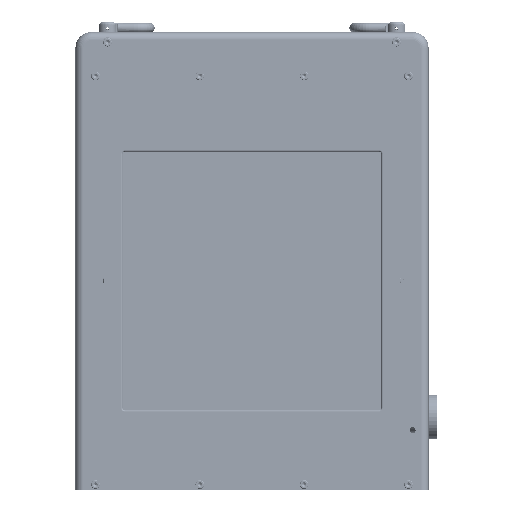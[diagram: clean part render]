
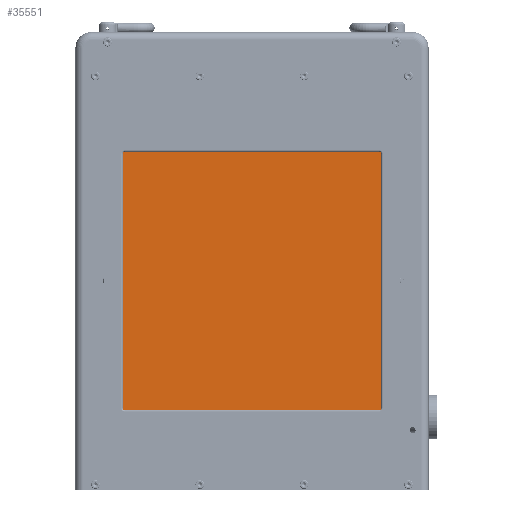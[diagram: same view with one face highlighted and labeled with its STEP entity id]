
A CAD part, top view. The second image highlights one B-rep face of the part: STEP entity #35551.
In plain terms, the highlighted planar face has unit normal (0, 0, 1).
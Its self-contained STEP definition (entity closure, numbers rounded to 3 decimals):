
#547 = VERTEX_POINT ( 'NONE', #16413 ) ;
#2853 = EDGE_LOOP ( 'NONE', ( #192200, #63842 ) ) ;
#3478 = EDGE_CURVE ( 'NONE', #225574, #107862, #183199, .T. ) ;
#9518 = CARTESIAN_POINT ( 'NONE',  ( -4.144, 10.699, -1.538 ) ) ;
#11223 = VERTEX_POINT ( 'NONE', #9518 ) ;
#12808 = VERTEX_POINT ( 'NONE', #21782 ) ;
#16413 = CARTESIAN_POINT ( 'NONE',  ( -4.144, 2.299, -1.538 ) ) ;
#20554 = DIRECTION ( 'NONE',  ( 0., 0., 1. ) ) ;
#21782 = CARTESIAN_POINT ( 'NONE',  ( -4.256, 2.299, -1.538 ) ) ;
#21845 = ORIENTED_EDGE ( 'NONE', *, *, #43625, .T. ) ;
#24628 = CARTESIAN_POINT ( 'NONE',  ( -4.2, 2.299, -1.538 ) ) ;
#28215 = FACE_BOUND ( 'NONE', #188206, .T. ) ;
#32546 = DIRECTION ( 'NONE',  ( -1., 0., 0. ) ) ;
#34349 = VERTEX_POINT ( 'NONE', #36705 ) ;
#35488 = VECTOR ( 'NONE', #32546, 39.37 ) ;
#35551 = ADVANCED_FACE ( 'NONE', ( #28215, #210201, #168925, #163423, #69527 ), #170372, .T. ) ;
#36705 = CARTESIAN_POINT ( 'NONE',  ( 4.375, 2.124, -1.538 ) ) ;
#37579 = CARTESIAN_POINT ( 'NONE',  ( -4.2, 2.299, -1.538 ) ) ;
#40556 = EDGE_CURVE ( 'NONE', #150929, #11223, #217038, .T. ) ;
#41251 = CARTESIAN_POINT ( 'NONE',  ( -4.375, 10.874, -1.538 ) ) ;
#42358 = DIRECTION ( 'NONE',  ( 1., 0., 0. ) ) ;
#42992 = AXIS2_PLACEMENT_3D ( 'NONE', #37579, #160919, #55296 ) ;
#43274 = CARTESIAN_POINT ( 'NONE',  ( 4.2, 2.299, -1.538 ) ) ;
#43625 = EDGE_CURVE ( 'NONE', #34349, #51428, #187084, .T. ) ;
#47060 = CARTESIAN_POINT ( 'NONE',  ( -4.2, 10.699, -1.538 ) ) ;
#51353 = CIRCLE ( 'NONE', #42992, 0.056 ) ;
#51428 = VERTEX_POINT ( 'NONE', #203815 ) ;
#52408 = CARTESIAN_POINT ( 'NONE',  ( 4.2, 10.699, -1.538 ) ) ;
#55296 = DIRECTION ( 'NONE',  ( 1., 0., 0. ) ) ;
#56526 = EDGE_CURVE ( 'NONE', #12808, #547, #51353, .T. ) ;
#58470 = DIRECTION ( 'NONE',  ( 0., 0., 1. ) ) ;
#59041 = EDGE_CURVE ( 'NONE', #82368, #64643, #69739, .T. ) ;
#60834 = DIRECTION ( 'NONE',  ( 1., 0., 0. ) ) ;
#60980 = DIRECTION ( 'NONE',  ( 1., 0., 0. ) ) ;
#61388 = AXIS2_PLACEMENT_3D ( 'NONE', #188095, #152613, #205792 ) ;
#63842 = ORIENTED_EDGE ( 'NONE', *, *, #134303, .F. ) ;
#64643 = VERTEX_POINT ( 'NONE', #75701 ) ;
#64796 = DIRECTION ( 'NONE',  ( 1., 0., 0. ) ) ;
#67394 = LINE ( 'NONE', #165725, #108672 ) ;
#69527 = FACE_OUTER_BOUND ( 'NONE', #126995, .T. ) ;
#69739 = CIRCLE ( 'NONE', #224994, 0.056 ) ;
#70115 = DIRECTION ( 'NONE',  ( 1., 0., 0. ) ) ;
#71526 = ORIENTED_EDGE ( 'NONE', *, *, #56526, .F. ) ;
#71547 = ORIENTED_EDGE ( 'NONE', *, *, #185013, .F. ) ;
#75701 = CARTESIAN_POINT ( 'NONE',  ( 4.144, 10.699, -1.538 ) ) ;
#77005 = DIRECTION ( 'NONE',  ( 0., 0., 1. ) ) ;
#82341 = ORIENTED_EDGE ( 'NONE', *, *, #201863, .F. ) ;
#82368 = VERTEX_POINT ( 'NONE', #190731 ) ;
#98548 = CARTESIAN_POINT ( 'NONE',  ( -4.256, 10.699, -1.538 ) ) ;
#104388 = VERTEX_POINT ( 'NONE', #139013 ) ;
#107862 = VERTEX_POINT ( 'NONE', #166945 ) ;
#108672 = VECTOR ( 'NONE', #60834, 39.37 ) ;
#109092 = EDGE_LOOP ( 'NONE', ( #121022, #71547 ) ) ;
#119575 = ORIENTED_EDGE ( 'NONE', *, *, #3478, .T. ) ;
#121022 = ORIENTED_EDGE ( 'NONE', *, *, #40556, .F. ) ;
#123364 = ORIENTED_EDGE ( 'NONE', *, *, #147194, .T. ) ;
#125268 = VERTEX_POINT ( 'NONE', #147287 ) ;
#126082 = CARTESIAN_POINT ( 'NONE',  ( 4.2, 10.699, -1.538 ) ) ;
#126995 = EDGE_LOOP ( 'NONE', ( #119575, #196817, #21845, #123364 ) ) ;
#134303 = EDGE_CURVE ( 'NONE', #104388, #125268, #154817, .T. ) ;
#136253 = VECTOR ( 'NONE', #225393, 39.37 ) ;
#136967 = AXIS2_PLACEMENT_3D ( 'NONE', #24628, #147951, #42358 ) ;
#139013 = CARTESIAN_POINT ( 'NONE',  ( 4.256, 2.299, -1.538 ) ) ;
#140075 = VECTOR ( 'NONE', #226604, 39.37 ) ;
#141205 = EDGE_CURVE ( 'NONE', #107862, #34349, #67394, .T. ) ;
#143875 = DIRECTION ( 'NONE',  ( 1., 0., 0. ) ) ;
#147194 = EDGE_CURVE ( 'NONE', #51428, #225574, #223166, .T. ) ;
#147287 = CARTESIAN_POINT ( 'NONE',  ( 4.144, 2.299, -1.538 ) ) ;
#147951 = DIRECTION ( 'NONE',  ( 0., 0., 1. ) ) ;
#150929 = VERTEX_POINT ( 'NONE', #98548 ) ;
#152613 = DIRECTION ( 'NONE',  ( 0., 0., 1. ) ) ;
#154817 = CIRCLE ( 'NONE', #220029, 0.056 ) ;
#160919 = DIRECTION ( 'NONE',  ( 0., 0., 1. ) ) ;
#163423 = FACE_BOUND ( 'NONE', #109092, .T. ) ;
#164123 = CARTESIAN_POINT ( 'NONE',  ( 4.2, 2.299, -1.538 ) ) ;
#164164 = AXIS2_PLACEMENT_3D ( 'NONE', #182599, #77005, #200325 ) ;
#165725 = CARTESIAN_POINT ( 'NONE',  ( -4.375, 2.124, -1.538 ) ) ;
#166614 = DIRECTION ( 'NONE',  ( 0., 0., 1. ) ) ;
#166945 = CARTESIAN_POINT ( 'NONE',  ( -4.375, 2.124, -1.538 ) ) ;
#168432 = EDGE_CURVE ( 'NONE', #125268, #104388, #175502, .T. ) ;
#168925 = FACE_BOUND ( 'NONE', #178486, .T. ) ;
#170372 = PLANE ( 'NONE',  #61388 ) ;
#170401 = DIRECTION ( 'NONE',  ( 0., 0., 1. ) ) ;
#173349 = CARTESIAN_POINT ( 'NONE',  ( 4.375, 10.874, -1.538 ) ) ;
#175502 = CIRCLE ( 'NONE', #191245, 0.056 ) ;
#175731 = DIRECTION ( 'NONE',  ( 0., 0., 1. ) ) ;
#178486 = EDGE_LOOP ( 'NONE', ( #224563, #180396 ) ) ;
#180396 = ORIENTED_EDGE ( 'NONE', *, *, #59041, .F. ) ;
#181775 = CIRCLE ( 'NONE', #221668, 0.056 ) ;
#181827 = DIRECTION ( 'NONE',  ( 1., 0., 0. ) ) ;
#182599 = CARTESIAN_POINT ( 'NONE',  ( -4.2, 10.699, -1.538 ) ) ;
#183199 = LINE ( 'NONE', #41251, #136253 ) ;
#185013 = EDGE_CURVE ( 'NONE', #11223, #150929, #181775, .T. ) ;
#187084 = LINE ( 'NONE', #173349, #140075 ) ;
#188088 = EDGE_CURVE ( 'NONE', #64643, #82368, #222099, .T. ) ;
#188095 = CARTESIAN_POINT ( 'NONE',  ( -4.375, 2.124, -1.538 ) ) ;
#188206 = EDGE_LOOP ( 'NONE', ( #71526, #82341 ) ) ;
#190731 = CARTESIAN_POINT ( 'NONE',  ( 4.256, 10.699, -1.538 ) ) ;
#191245 = AXIS2_PLACEMENT_3D ( 'NONE', #43274, #166614, #60980 ) ;
#192200 = ORIENTED_EDGE ( 'NONE', *, *, #168432, .F. ) ;
#196817 = ORIENTED_EDGE ( 'NONE', *, *, #141205, .T. ) ;
#200325 = DIRECTION ( 'NONE',  ( 1., 0., 0. ) ) ;
#201565 = CARTESIAN_POINT ( 'NONE',  ( -4.375, 10.874, -1.538 ) ) ;
#201863 = EDGE_CURVE ( 'NONE', #547, #12808, #226188, .T. ) ;
#203815 = CARTESIAN_POINT ( 'NONE',  ( 4.375, 10.874, -1.538 ) ) ;
#205792 = DIRECTION ( 'NONE',  ( 1., 0., 0. ) ) ;
#210201 = FACE_BOUND ( 'NONE', #2853, .T. ) ;
#217038 = CIRCLE ( 'NONE', #164164, 0.056 ) ;
#220029 = AXIS2_PLACEMENT_3D ( 'NONE', #164123, #58470, #181827 ) ;
#221668 = AXIS2_PLACEMENT_3D ( 'NONE', #47060, #170401, #64796 ) ;
#222099 = CIRCLE ( 'NONE', #228154, 0.056 ) ;
#223166 = LINE ( 'NONE', #226110, #35488 ) ;
#224563 = ORIENTED_EDGE ( 'NONE', *, *, #188088, .F. ) ;
#224994 = AXIS2_PLACEMENT_3D ( 'NONE', #52408, #175731, #70115 ) ;
#225393 = DIRECTION ( 'NONE',  ( 0., -1., 0. ) ) ;
#225574 = VERTEX_POINT ( 'NONE', #201565 ) ;
#226110 = CARTESIAN_POINT ( 'NONE',  ( -4.375, 10.874, -1.538 ) ) ;
#226188 = CIRCLE ( 'NONE', #136967, 0.056 ) ;
#226604 = DIRECTION ( 'NONE',  ( 0., 1., 0. ) ) ;
#228154 = AXIS2_PLACEMENT_3D ( 'NONE', #126082, #20554, #143875 ) ;
